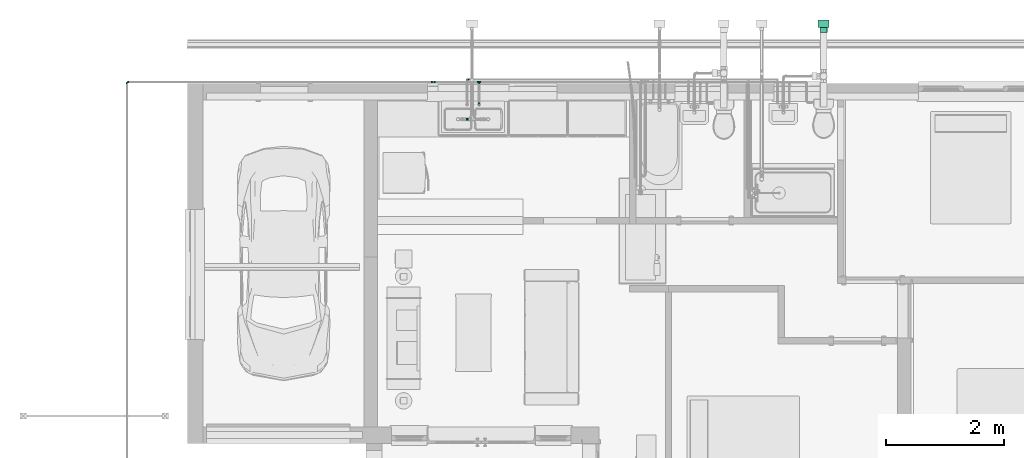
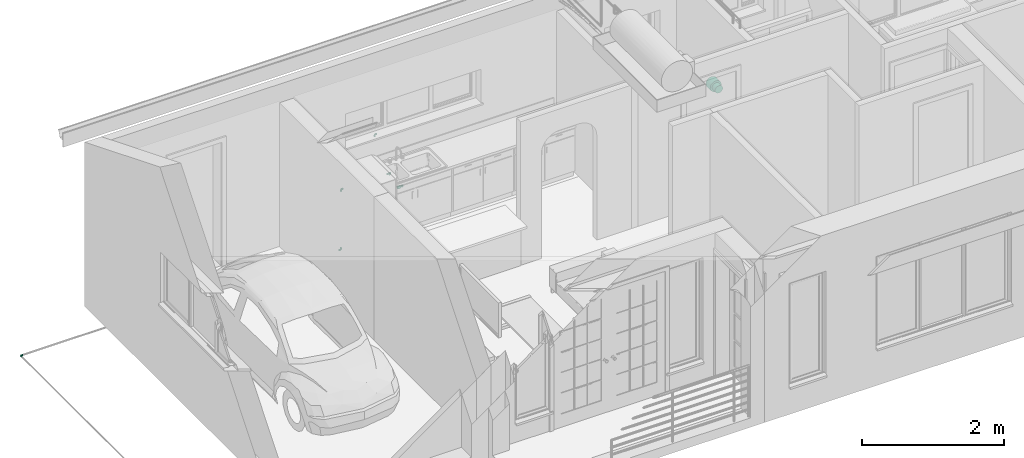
# One storey, part 26 of 41: 7 flow fittings, 1 flow segment.
"""IFC2X3 building model written with IfcOpenShell, lengths in millimetres."""

from ifc_helpers import new_model, entity, si_unit, converted_unit, derived_unit, direction, frame, origin, origin_2d_with_axis, place, context, subcontext, project, spatial, circle, extrude, faceted_brep, source, transform, mapped, type_object, type_shapes, element, save


model = new_model("IFC2X3")

# Units and contexts
model_context = context("Model", 3, precision=0.01, world=origin(), true_north=direction((6.12303176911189e-17, 1.0)))
body_context = subcontext(model_context, "Body", "Model", "MODEL_VIEW")
ifc_project = project(units=[si_unit("LENGTHUNIT", "METRE", prefix="MILLI"), si_unit("AREAUNIT", "SQUARE_METRE"), si_unit("VOLUMEUNIT", "CUBIC_METRE"), converted_unit("PLANEANGLEUNIT", "DEGREE", entity("IfcRatioMeasure", 0.0174532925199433), si_unit("PLANEANGLEUNIT", "RADIAN"), dimensions=[0, 0, 0, 0, 0, 0, 0]), si_unit("MASSUNIT", "GRAM", prefix="KILO"), derived_unit("MASSDENSITYUNIT", [(si_unit("MASSUNIT", "GRAM", prefix="KILO"), 1), (si_unit("LENGTHUNIT", "METRE"), -3)]), si_unit("TIMEUNIT", "SECOND"), si_unit("FREQUENCYUNIT", "HERTZ"), si_unit("THERMODYNAMICTEMPERATUREUNIT", "DEGREE_CELSIUS"), derived_unit("THERMALTRANSMITTANCEUNIT", [(si_unit("MASSUNIT", "GRAM", prefix="KILO"), 1), (si_unit("THERMODYNAMICTEMPERATUREUNIT", "KELVIN"), -1), (si_unit("TIMEUNIT", "SECOND"), -3)]), derived_unit("VOLUMETRICFLOWRATEUNIT", [(si_unit("LENGTHUNIT", "METRE"), 3), (si_unit("TIMEUNIT", "SECOND"), -1)]), si_unit("ELECTRICCURRENTUNIT", "AMPERE"), si_unit("ELECTRICVOLTAGEUNIT", "VOLT"), si_unit("POWERUNIT", "WATT"), si_unit("FORCEUNIT", "NEWTON", prefix="KILO"), si_unit("ILLUMINANCEUNIT", "LUX"), si_unit("LUMINOUSFLUXUNIT", "LUMEN"), si_unit("LUMINOUSINTENSITYUNIT", "CANDELA"), derived_unit("USERDEFINED", [(si_unit("MASSUNIT", "GRAM", prefix="KILO"), -1), (si_unit("LENGTHUNIT", "METRE"), -2), (si_unit("TIMEUNIT", "SECOND"), 3), (si_unit("LUMINOUSFLUXUNIT", "LUMEN"), 1)]), derived_unit("LINEARVELOCITYUNIT", [(si_unit("LENGTHUNIT", "METRE"), 1), (si_unit("TIMEUNIT", "SECOND"), -1)]), si_unit("PRESSUREUNIT", "PASCAL"), derived_unit("USERDEFINED", [(si_unit("LENGTHUNIT", "METRE"), -2), (si_unit("MASSUNIT", "GRAM", prefix="KILO"), 1), (si_unit("TIMEUNIT", "SECOND"), -2)])], contexts=[model_context])

# Site, building, storey
site_placement = place(None, origin())
site = spatial("IfcSite", under=ifc_project, at=site_placement, Name="Surface", CompositionType="ELEMENT")
building_placement = place(site_placement, origin())
building = spatial("IfcBuilding", under=site, at=building_placement, CompositionType="ELEMENT")
storey_placement = place(building_placement, frame((0.0, 0.0, 300.0)))
storey = spatial("IfcBuildingStorey", under=building, at=storey_placement, Name="F.F.L", CompositionType="ELEMENT", Elevation=300.0)

# Flow segment
pipe_segment_type = type_object("IfcPipeSegmentType", Name="Pipe Types:PVC80", PredefinedType="NOTDEFINED")
flow_segment_placement = place(storey_placement, origin())
element("IfcFlowSegment", 1, at=flow_segment_placement, inside=storey, type_object=pipe_segment_type, Name="Pipe Types:PVC80", ObjectType="Pipe Types:PVC80", context=body_context, shape_type="SweptSolid", body=[
    extrude(circle(Radius=24.13, at=origin_2d_with_axis()), frame((-7358.67537007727, 10220.2400891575, 601.606074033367), z_axis=(1.0, 0.0, 0.0), x_axis=(0.0, -1.0, 0.0)), (0.0, 0.0, 1.0), 42.5042459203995),
])

# Space
space_placement = place(storey_placement, origin())
space = spatial("IfcSpace", under=storey, at=space_placement, Name="2", CompositionType="ELEMENT", InteriorOrExteriorSpace="INTERNAL")

# Flow fittings
pipe_fitting_type_1 = type_object("IfcPipeFittingType", Name="Standard", PredefinedType="NOTDEFINED")
shared_shape_1 = source(origin(), body_context, "Body", "Brep", [
    faceted_brep([(-33.7375499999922, 3.59598004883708, -13.4203802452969), (-33.7375499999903, -3.59598004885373, -13.420380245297), (-33.7375499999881, -12.0323837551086, -6.94690000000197), (-33.7375499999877, -13.8938000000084, 0.0), (-33.7375499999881, -12.0323837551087, 6.94689999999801), (-33.7375499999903, -3.59598004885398, 13.4203802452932), (-33.7375499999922, 3.59598004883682, 13.4203802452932), (-33.7375499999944, 12.0323837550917, 6.94689999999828), (-33.7375499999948, 13.8937999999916, 0.0), (-33.7375499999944, 12.0323837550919, -6.94690000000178), (-14.6875499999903, -13.8938000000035, 0.0), (-14.6875499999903, -12.0323837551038, 6.94689999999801), (-14.6875499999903, -3.59598004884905, 13.4203802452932), (-14.6875499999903, 3.59598004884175, 13.4203802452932), (3.59598004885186, 33.7375499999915, 13.4203802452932), (-3.59598004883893, 33.7375499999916, 13.4203802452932), (-3.59598004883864, 14.6875499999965, 13.4203802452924), (3.59598004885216, 14.6875499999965, 13.420380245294), (-14.6875499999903, 12.0323837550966, 6.94689999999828), (-14.6875499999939, 13.8937999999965, 0.0), (-14.6875499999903, 12.0323837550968, -6.94690000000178), (-14.6875499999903, 3.595980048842, -13.4203802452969), (-14.6875499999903, -3.59598004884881, -13.420380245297), (-3.59598004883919, 33.7375499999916, -13.4203802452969), (3.59598004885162, 33.7375499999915, -13.420380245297), (3.59598004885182, 14.6875499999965, -13.4203802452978), (-3.59598004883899, 14.6875499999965, -13.420380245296), (-14.6875499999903, -12.0323837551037, -6.94690000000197), (-0.73570850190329, 0.735706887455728, 12.9461366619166), (-5.12124733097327, -8.86554492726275, 8.82133054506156), (-3.19746952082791, -7.25999894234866, 0.0), (8.85075041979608, 5.0327975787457, 8.79727043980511), (12.0323837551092, 14.6875499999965, 6.94689999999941), (10.0646251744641, 0.396874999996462, 0.0), (-14.1262839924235, 14.1262839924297, 0.0), (-12.0323837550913, 14.6875499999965, 6.94689999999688), (-8.39237862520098, 8.39237845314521, 12.6322359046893), (13.8938000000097, 14.6875499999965, 0.0), (-13.8937999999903, 14.6875499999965, 0.0), (12.032383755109, 14.6875499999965, -6.94690000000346), (8.85074986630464, 5.03279761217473, -8.79727108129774), (-5.12124714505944, -8.86554487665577, -8.82133051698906), (-0.735707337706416, 0.735706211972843, -12.9461361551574), (-12.0323837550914, 14.6875499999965, -6.9469000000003), (-8.39237835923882, 8.3923781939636, -12.6322360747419), (-12.032383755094, 33.7375499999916, -6.94690000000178), (-13.8937999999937, 33.7375499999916, 0.0), (-12.0323837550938, 33.7375499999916, 6.94689999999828), (12.0323837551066, 33.7375499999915, 6.94689999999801), (13.8938000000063, 33.7375499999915, 0.0), (12.0323837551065, 33.7375499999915, -6.94690000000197)], [[[0, 1, 2, 3, 4, 5, 6, 7, 8, 9]], [[3, 10, 11, 4]], [[4, 11, 12, 5]], [[12, 13, 6, 5]], [[14, 15, 16, 17]], [[6, 13, 18, 7]], [[7, 18, 19, 8]], [[8, 19, 20, 9]], [[9, 20, 21, 0]], [[21, 22, 1, 0]], [[23, 24, 25, 26]], [[1, 22, 27, 2]], [[2, 27, 10, 3]], [[12, 28, 13]], [[29, 11, 30]], [[31, 28, 29]], [[28, 12, 29]], [[32, 31, 33]], [[34, 18, 35]], [[18, 36, 35]], [[34, 19, 18]], [[18, 13, 36]], [[11, 10, 30]], [[29, 33, 31]], [[33, 37, 32]], [[29, 30, 33]], [[32, 17, 31]], [[28, 36, 13]], [[34, 35, 38]], [[29, 12, 11]], [[35, 36, 16]], [[28, 16, 36]], [[17, 28, 31]], [[16, 28, 17]], [[20, 19, 34]], [[39, 40, 25]], [[40, 41, 42]], [[20, 43, 44]], [[41, 30, 27]], [[42, 21, 44]], [[41, 33, 30]], [[42, 44, 26]], [[27, 30, 10]], [[20, 34, 43]], [[43, 26, 44]], [[42, 25, 40]], [[41, 27, 22]], [[25, 42, 26]], [[40, 39, 33]], [[22, 21, 42]], [[39, 37, 33]], [[22, 42, 41]], [[33, 41, 40]], [[20, 44, 21]], [[43, 34, 38]], [[23, 45, 46, 47, 15, 14, 48, 49, 50, 24]], [[37, 49, 48, 32]], [[32, 48, 14, 17]], [[16, 15, 47, 35]], [[35, 47, 46, 38]], [[38, 46, 45, 43]], [[43, 45, 23, 26]], [[25, 24, 50, 39]], [[39, 50, 49, 37]]]),
])
type_shapes(pipe_fitting_type_1, [shared_shape_1])
flow_fitting_1_placement = place(space_placement, frame((-7135.27517007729, 10468.6900891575, 383.200000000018), z_axis=(1.0, 0.0, 0.0), x_axis=(0.0, 0.0, -1.0)))
element("IfcFlowFitting", 2, at=flow_fitting_1_placement, inside=space, type_object=pipe_fitting_type_1, Name="M_Elbow - PVC - Sch 40:Standard", ObjectType="Standard", context=body_context, shape_type="MappedRepresentation", body=[
    mapped(shared_shape_1, transform((0.0, 0.0, 0.0), scale=1.0)),
])
for number, where, z_axis, x_axis, name in (
    (3, (-7339.9391584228, 10892.2567375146, 1100.0), (0.0, -1.0, 0.0), (-1.0, 0.0, 0.0), "M_Elbow - PVC - Sch 40:Standard"),
    (4, (-7911.74186599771, 10850.8400891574, 383.199999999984), (0.0, -1.0, 0.0), (-1.0, 0.0, 0.0), "M_Elbow - PVC - Sch 40:Standard"),
    (5, (-7911.74186599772, 10850.8400891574, -650.0), (0.0, 1.0, 0.0), (0.0, 0.0, -1.0), "M_Elbow - PVC - Sch 40:Standard"),
    (6, (-13111.7418659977, 10850.8400891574, -650.0), (0.0, 0.0, 1.0), (-1.0, 0.0, 0.0), "M_Elbow - PVC - Sch 40:Standard"),
):
    element("IfcFlowFitting", number, at=place(storey_placement, frame(where, z_axis=z_axis, x_axis=x_axis)), inside=storey, type_object=pipe_fitting_type_1, Name=name, ObjectType="Standard", context=body_context, shape_type="MappedRepresentation", body=[
        mapped(shared_shape_1, transform((0.0, 0.0, 0.0), scale=1.0)),
    ])
pipe_fitting_type_2 = type_object("IfcPipeFittingType", Name="Standard", PredefinedType="NOTDEFINED")
shared_shape_2 = source(origin(), body_context, "Body", "Brep", [
    faceted_brep([(-31.7499999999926, -6.94690000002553, 12.0323837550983), (-31.7499999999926, 0.0, 12.0323837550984), (-31.7499999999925, 6.94689999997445, 12.0323837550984), (-31.7499999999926, 10.4203499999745, 6.01619187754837), (-31.7499999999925, 13.8937999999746, 0.0), (-31.7499999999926, 10.4203499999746, -6.01619187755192), (-31.7499999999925, 6.94689999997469, -12.0323837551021), (-31.7499999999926, 0.0, -12.0323837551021), (-31.7499999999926, -6.94690000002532, -12.0323837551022), (-31.7499999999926, -10.4203500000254, -6.01619187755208), (-31.7499999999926, -13.8938000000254, 0.0), (-31.7499999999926, -12.1942000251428, 2.94379350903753), (-31.7499999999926, -10.4203500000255, 6.0161918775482), (31.7500000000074, -6.94690000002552, -12.0323837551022), (31.7500000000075, 0.0, -12.0323837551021), (31.7500000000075, 6.94689999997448, -12.0323837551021), (31.7500000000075, 10.4945999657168, -5.88758716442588), (31.7500000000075, 13.8937999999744, 0.0), (31.7500000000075, 10.4203499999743, 6.01619187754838), (31.7500000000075, 6.94689999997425, 12.0323837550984), (31.7500000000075, 0.0, 12.0323837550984), (31.7500000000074, -6.94690000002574, 12.0323837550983), (31.7500000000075, -10.4203500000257, 6.01619187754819), (31.7500000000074, -13.8938000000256, 0.0), (31.7500000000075, -12.1941999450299, -2.94379364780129), (31.7500000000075, -10.4203500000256, -6.01619187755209), (11.9878956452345, -11.9878956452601, 4.77993540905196), (10.081991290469, -10.0819912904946, 9.55987081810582), (0.0, 0.0, 13.8937999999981), (-13.8938, -13.8938000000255, 0.0), (-10.8405074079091, -10.8405074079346, 5.75319397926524), (-10.7027027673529, -10.7027027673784, 6.01285361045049), (-7.78721481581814, -7.78721481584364, 11.5063879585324), (13.8938, -13.8938000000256, 0.0), (-11.9878956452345, -11.98789564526, -4.77993540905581), (0.0, 0.0, -13.8938000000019), (-10.0819912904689, -10.0819912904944, -9.55987081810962), (10.840507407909, -10.8405074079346, -5.75319397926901), (10.7027027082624, -10.7027027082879, -6.01285372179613), (7.78721481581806, -7.78721481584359, -11.5063879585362), (6.94690000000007, -31.7500000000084, -12.0323837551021), (10.4946000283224, -31.7500000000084, -5.88758705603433), (13.8938000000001, -31.7500000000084, 0.0), (10.42035, -31.7500000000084, 6.01619187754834), (6.94689999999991, -31.7500000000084, 12.0323837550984), (0.0, -31.7500000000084, 12.0323837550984), (-6.94690000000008, -31.7500000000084, 12.0323837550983), (-10.4946000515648, -31.7500000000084, 5.88758701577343), (-13.8938, -31.7500000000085, 0.0), (-10.4203499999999, -31.7500000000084, -6.01619187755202), (-6.94689999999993, -31.7500000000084, -12.0323837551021), (0.0, -31.7500000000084, -12.0323837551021)], [[[0, 1, 2, 3, 4, 5, 6, 7, 8, 9, 10, 11, 12]], [[13, 14, 15, 16, 17, 18, 19, 20, 21, 22, 23, 24, 25]], [[26, 23, 22]], [[27, 22, 21]], [[28, 21, 20, 19]], [[11, 29, 30, 31]], [[12, 32, 0]], [[23, 26, 33]], [[10, 29, 11]], [[22, 27, 26]], [[21, 28, 27]], [[32, 12, 31]], [[4, 3, 2, 19, 18, 17]], [[32, 1, 0]], [[32, 28, 1]], [[31, 12, 11]], [[2, 28, 19]], [[28, 2, 1]], [[6, 5, 4, 17, 16, 15]], [[10, 34, 29]], [[6, 15, 35]], [[6, 35, 8, 7]], [[9, 36, 34]], [[24, 33, 37, 38]], [[14, 13, 39]], [[33, 24, 23]], [[39, 25, 38]], [[39, 13, 25]], [[36, 8, 35]], [[38, 25, 24]], [[9, 34, 10]], [[35, 15, 14]], [[36, 9, 8]], [[39, 35, 14]], [[40, 41, 42, 43, 44, 45, 46, 47, 48, 49, 50, 51]], [[46, 32, 31, 30]], [[29, 48, 47]], [[47, 30, 29]], [[32, 46, 45]], [[27, 44, 43]], [[33, 43, 42]], [[46, 30, 47]], [[32, 45, 28]], [[43, 33, 26, 27]], [[28, 45, 44]], [[28, 44, 27]], [[40, 39, 38, 37]], [[33, 42, 41]], [[41, 37, 33]], [[39, 40, 51]], [[36, 50, 49]], [[29, 49, 48]], [[40, 37, 41]], [[39, 51, 35]], [[49, 29, 34, 36]], [[35, 51, 50]], [[35, 50, 36]]]),
])
type_shapes(pipe_fitting_type_2, [shared_shape_2])
flow_fitting_2_placement = place(storey_placement, frame((-7135.2751700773, 10850.8400891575, 383.200000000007)))
element("IfcFlowFitting", 7, at=flow_fitting_2_placement, inside=storey, type_object=pipe_fitting_type_2, Name="M_Tee - PVC - Sch 40:Standard", ObjectType="Standard", context=body_context, shape_type="MappedRepresentation", body=[
    mapped(shared_shape_2, transform((0.0, 0.0, 0.0), scale=1.0)),
])
pipe_fitting_type_3 = type_object("IfcPipeFittingType", Name="Standard", PredefinedType="NOTDEFINED")
shared_shape_3 = source(origin(), body_context, "Body", "Brep", [
    faceted_brep([(127.096875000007, -14.0176888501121, 61.4155076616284), (127.096874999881, -26.6471901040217, 55.3334604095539), (127.096875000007, -39.2766913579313, 49.2514131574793), (127.096874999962, -48.0165774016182, 38.2919427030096), (127.096875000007, -56.7564634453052, 27.3324722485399), (127.096875, -59.8756926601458, 13.6662361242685), (127.096875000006, -62.9949218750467, 0.0), (127.096875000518, -59.8756926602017, -13.6662361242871), (127.096875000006, -56.7564634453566, -27.3324722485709), (127.096875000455, -48.0165774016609, -38.2919427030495), (127.096875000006, -39.2766913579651, -49.2514131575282), (127.096875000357, -26.6471901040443, -55.3334604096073), (127.096875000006, -14.0176888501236, -61.4155076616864), (127.096875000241, 0.0, -61.4155076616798), (127.096875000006, 14.0176888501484, -61.4155076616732), (127.096875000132, 26.6471901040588, -55.3334604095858), (127.096875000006, 39.2766913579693, -49.2514131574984), (127.09687500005, 48.0165774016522, -38.2919427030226), (127.096875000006, 56.7564634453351, -27.3324722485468), (127.096875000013, 59.8756926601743, -13.6662361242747), (127.096875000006, 62.9949218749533, 0.0), (127.096874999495, 59.8756926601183, 13.6662361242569), (127.096875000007, 56.7564634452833, 27.3324722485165), (127.096874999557, 48.0165774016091, 38.2919427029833), (127.096875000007, 39.2766913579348, 49.2514131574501), (127.096874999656, 26.6471901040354, 55.3334604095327), (127.096875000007, 14.0176888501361, 61.4155076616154), (127.096874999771, 0.0, 61.4155076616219), (123.921875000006, -90.994921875, 0.0), (123.921875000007, -85.5072566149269, 31.1220962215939), (123.921875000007, -69.706154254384, 58.4904083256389), (123.921875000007, -45.4974609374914, 78.803913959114), (123.921875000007, -15.8011023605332, 89.6125045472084), (123.921875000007, 15.8011023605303, 89.6125045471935), (123.921875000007, 45.4974609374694, 78.8039139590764), (123.921875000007, 69.7061542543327, 58.4904083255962), (123.921875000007, 85.5072566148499, 31.1220962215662), (123.921875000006, 90.994921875, 0.0), (123.921875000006, 85.5072566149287, -31.1220962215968), (123.921875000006, 69.7061542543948, -58.4904083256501), (123.921875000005, 45.497460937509, -78.8039139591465), (123.921875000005, 15.8011023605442, -89.6125045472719), (123.921875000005, -15.801102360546, -89.6125045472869), (123.921875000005, -45.49746093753, -78.8039139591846), (123.921875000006, -69.7061542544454, -58.4904083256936), (123.921875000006, -85.5072566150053, -31.1220962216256)], [[[0, 1, 2, 3, 4, 5, 6, 7, 8, 9, 10, 11, 12, 13, 14, 15, 16, 17, 18, 19, 20, 21, 22, 23, 24, 25, 26, 27]], [[28, 29, 30, 31, 32, 33, 34, 35, 36, 37, 38, 39, 40, 41, 42, 43, 44, 45]], [[45, 7, 28]], [[12, 11, 42]], [[6, 28, 7]], [[45, 8, 7]], [[9, 8, 44, 10]], [[14, 41, 15]], [[11, 10, 43]], [[44, 43, 10]], [[13, 12, 42, 41, 14]], [[17, 16, 39, 18]], [[43, 42, 11]], [[40, 15, 41]], [[45, 44, 8]], [[20, 19, 37]], [[40, 16, 15]], [[19, 18, 38]], [[16, 40, 39]], [[18, 39, 38]], [[37, 19, 38]], [[36, 21, 37]], [[26, 25, 33]], [[20, 37, 21]], [[36, 22, 21]], [[23, 22, 35, 24]], [[0, 32, 1]], [[25, 24, 34]], [[35, 34, 24]], [[27, 26, 33, 32, 0]], [[3, 2, 30, 4]], [[34, 33, 25]], [[31, 1, 32]], [[36, 35, 22]], [[6, 5, 28]], [[31, 2, 1]], [[5, 4, 29]], [[2, 31, 30]], [[4, 30, 29]], [[28, 5, 29]]]),
    faceted_brep([(213.018750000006, -16.3042855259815, -60.8484219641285), (213.018750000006, 0.0, -62.9949218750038), (213.018750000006, 16.3042855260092, -60.8484219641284), (213.018750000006, 31.4974609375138, -54.5552026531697), (213.018750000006, 44.544136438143, -44.5441364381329), (213.018750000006, 54.5552026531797, -31.4974609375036), (213.018750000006, 60.8484219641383, -16.304285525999), (213.018750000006, 62.9949218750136, 0.0), (213.018750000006, 60.8484219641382, 16.3042855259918), (213.018750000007, 54.5552026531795, 31.4974609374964), (213.018750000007, 44.5441364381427, 44.5441364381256), (213.018750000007, 31.4974609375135, 54.5552026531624), (213.018750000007, 16.3042855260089, 60.848421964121), (213.018750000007, 0.0, 62.9949218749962), (213.018750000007, -16.3042855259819, 60.8484219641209), (213.018750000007, -31.4974609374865, 54.5552026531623), (213.018750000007, -44.5441364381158, 44.5441364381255), (213.018750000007, -54.5552026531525, 31.4974609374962), (213.018750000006, -60.8484219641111, 16.3042855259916), (213.018750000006, -62.9949218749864, 0.0), (213.018750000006, -60.848421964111, -16.3042855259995), (213.018750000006, -54.5552026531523, -31.4974609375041), (213.018750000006, -44.5441364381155, -44.5441364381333), (213.018750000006, -31.4974609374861, -54.55520265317), (127.096875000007, -16.3042855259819, 60.8484219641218), (127.096875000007, 0.0, 62.9949218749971), (127.096875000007, 16.3042855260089, 60.8484219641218), (127.096875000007, 31.4974609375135, 54.5552026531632), (127.096875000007, 44.5441364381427, 44.5441364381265), (127.096875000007, 54.5552026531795, 31.4974609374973), (127.096875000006, 60.8484219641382, 16.3042855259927), (127.096875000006, 62.9949218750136, 0.0), (127.096875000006, 60.8484219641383, -16.3042855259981), (127.096875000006, 54.5552026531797, -31.4974609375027), (127.096875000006, 44.544136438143, -44.544136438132), (127.096875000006, 31.4974609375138, -54.5552026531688), (127.096875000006, 16.3042855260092, -60.8484219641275), (127.096875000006, 0.0, -62.9949218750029), (127.096875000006, -16.3042855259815, -60.8484219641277), (127.096875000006, -31.4974609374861, -54.5552026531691), (127.096875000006, -44.5441364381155, -44.5441364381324), (127.096875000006, -54.5552026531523, -31.4974609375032), (127.096875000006, -60.848421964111, -16.3042855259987), (127.096875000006, -62.9949218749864, 0.0), (127.096875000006, -60.8484219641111, 16.3042855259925), (127.096875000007, -54.5552026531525, 31.4974609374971), (127.096875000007, -44.5441364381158, 44.5441364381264), (127.096875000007, -31.4974609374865, 54.5552026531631)], [[[0, 1, 2, 3, 4, 5, 6, 7, 8, 9, 10, 11, 12, 13, 14, 15, 16, 17, 18, 19, 20, 21, 22, 23]], [[24, 25, 26, 27, 28, 29, 30, 31, 32, 33, 34, 35, 36, 37, 38, 39, 40, 41, 42, 43, 44, 45, 46, 47]], [[33, 32, 6, 5]], [[33, 5, 4, 34]], [[36, 35, 3, 2]], [[4, 3, 35, 34]], [[37, 36, 2, 1]], [[31, 7, 6, 32]], [[39, 38, 0, 23]], [[39, 23, 22, 40]], [[42, 41, 21, 20]], [[22, 21, 41, 40]], [[43, 42, 20, 19]], [[1, 0, 38, 37]], [[44, 43, 19, 18]], [[44, 18, 17, 45]], [[24, 47, 15, 14]], [[25, 24, 14, 13]], [[15, 47, 46, 16]], [[45, 17, 16, 46]], [[27, 26, 12, 11]], [[27, 11, 10, 28]], [[30, 29, 9, 8]], [[10, 9, 29, 28]], [[31, 30, 8, 7]], [[13, 12, 26, 25]]]),
    faceted_brep([(123.921875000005, -23.5512187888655, -87.89434510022), (123.921875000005, 0.0, -90.9949218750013), (123.921875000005, 23.5512187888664, -87.8943451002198), (123.921875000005, 45.4974609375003, -78.8039139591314), (123.921875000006, 64.3431263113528, -64.3431263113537), (123.921875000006, 78.8039139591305, -45.497460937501), (123.921875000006, 87.8943451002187, -23.5512187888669), (123.921875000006, 90.994921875, 0.0), (123.921875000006, 87.8943451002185, 23.551218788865), (123.921875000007, 78.8039139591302, 45.4974609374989), (123.921875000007, 64.3431263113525, 64.3431263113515), (123.921875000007, 45.4974609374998, 78.8039139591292), (123.921875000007, 23.5512187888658, 87.8943451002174), (123.921875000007, 0.0, 90.9949218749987), (123.921875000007, -23.5512187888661, 87.8943451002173), (123.921875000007, -45.4974609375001, 78.803913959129), (123.921875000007, -64.3431263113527, 64.3431263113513), (123.921875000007, -78.8039139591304, 45.4974609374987), (123.921875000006, -87.8943451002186, 23.5512187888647), (123.921875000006, -90.994921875, 0.0), (123.921875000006, -87.8943451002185, -23.5512187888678), (123.921875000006, -78.8039139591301, -45.4974609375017), (123.921875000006, -64.3431263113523, -64.3431263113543), (123.921875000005, -45.4974609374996, -78.8039139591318), (0.0, -45.4974609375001, 78.8039139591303), (0.0, -23.5512187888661, 87.8943451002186), (0.0, 0.0, 90.994921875), (0.0, 23.5512187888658, 87.8943451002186), (0.0, 45.4974609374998, 78.8039139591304), (0.0, 64.3431263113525, 64.3431263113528), (0.0, 78.8039139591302, 45.4974609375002), (0.0, 87.8943451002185, 23.5512187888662), (0.0, 90.994921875, 0.0), (0.0, 87.8943451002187, -23.5512187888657), (0.0, 78.8039139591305, -45.4974609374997), (0.0, 64.3431263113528, -64.3431263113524), (0.0, 45.4974609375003, -78.8039139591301), (0.0, 23.5512187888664, -87.8943451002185), (0.0, 0.0, -90.994921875), (0.0, -23.5512187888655, -87.8943451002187), (0.0, -45.4974609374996, -78.8039139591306), (0.0, -64.3431263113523, -64.343126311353), (0.0, -78.8039139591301, -45.4974609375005), (0.0, -87.8943451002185, -23.5512187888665), (0.0, -90.994921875, 0.0), (0.0, -87.8943451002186, 23.551218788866), (0.0, -78.8039139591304, 45.4974609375), (0.0, -64.3431263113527, 64.3431263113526)], [[[0, 1, 2, 3, 4, 5, 6, 7, 8, 9, 10, 11, 12, 13, 14, 15, 16, 17, 18, 19, 20, 21, 22, 23]], [[24, 25, 26, 27, 28, 29, 30, 31, 32, 33, 34, 35, 36, 37, 38, 39, 40, 41, 42, 43, 44, 45, 46, 47]], [[34, 33, 6, 5]], [[34, 5, 4, 35]], [[37, 36, 3, 2]], [[4, 3, 36, 35]], [[38, 37, 2, 1]], [[32, 7, 6, 33]], [[40, 39, 0, 23]], [[40, 23, 22, 41]], [[43, 42, 21, 20]], [[22, 21, 42, 41]], [[44, 43, 20, 19]], [[1, 0, 39, 38]], [[45, 44, 19, 18]], [[46, 45, 18, 17]], [[25, 24, 15, 14]], [[26, 25, 14, 13]], [[17, 16, 47, 46]], [[16, 15, 24, 47]], [[28, 27, 12, 11]], [[28, 11, 10, 29]], [[31, 30, 9, 8]], [[10, 9, 30, 29]], [[32, 31, 8, 7]], [[13, 12, 27, 26]]]),
])
type_shapes(pipe_fitting_type_3, [shared_shape_3])
flow_fitting_3_placement = place(storey_placement, frame((-1290.12925728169, 11903.5835294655, -729.287932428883), z_axis=(0.999800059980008, 0.0, 0.0199960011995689), x_axis=(0.0, -1.0, 0.0)))
element("IfcFlowFitting", 8, at=flow_fitting_3_placement, inside=storey, type_object=pipe_fitting_type_3, Name="M_Coupling Reducing - PVC - Sch 40:Standard", ObjectType="Standard", context=body_context, shape_type="MappedRepresentation", body=[
    mapped(shared_shape_3, transform((0.0, 0.0, 0.0), scale=1.0)),
])

save(model, "model.ifc")
